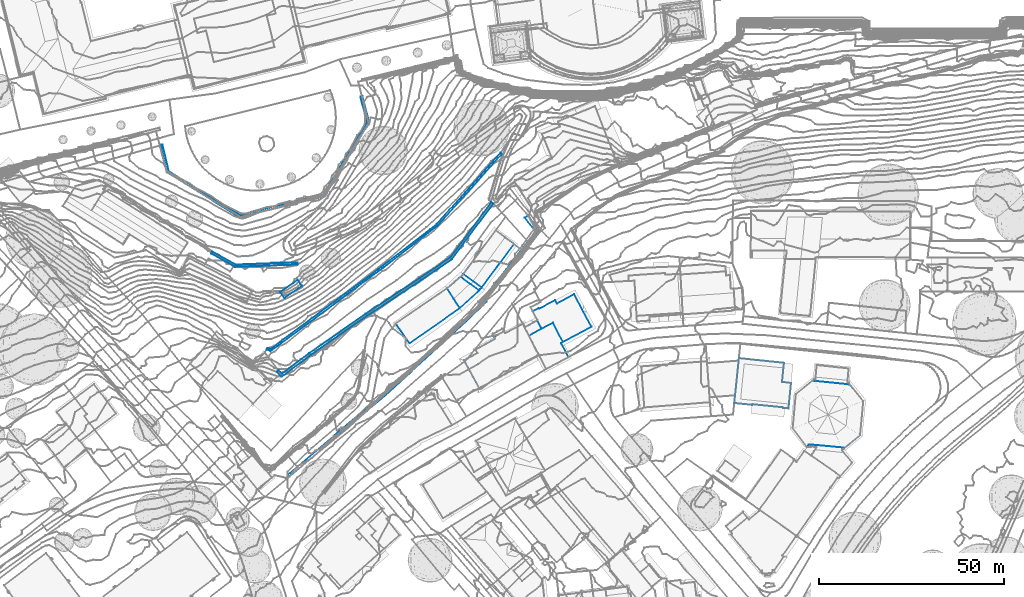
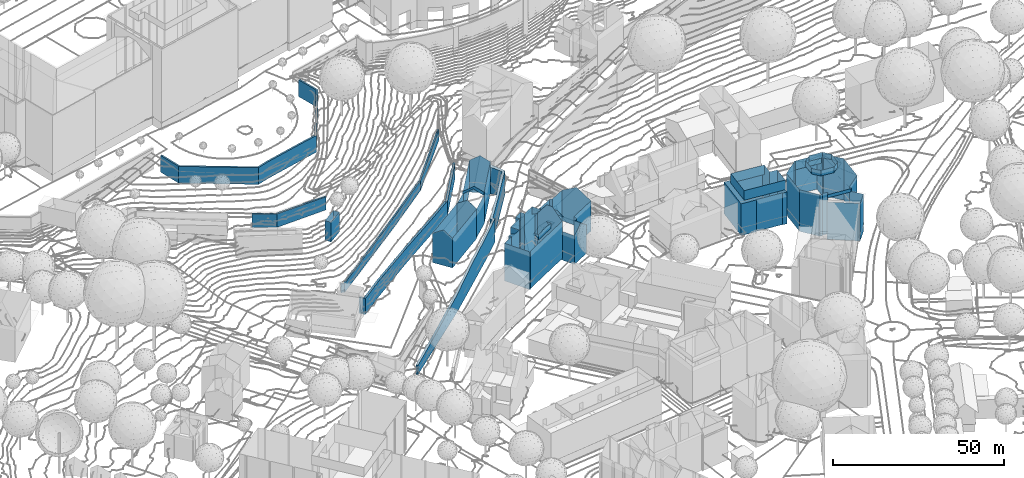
# Not in any storey, part 51 of 477: 12 walls.
"""IFC4 building model written with IfcOpenShell, lengths in metres."""

from ifc_helpers import new_model, si_unit, frame, origin_with_axes, place, context, subcontext, project, spatial, polygons, element, save


model = new_model("IFC4")

# Units and contexts
model_context = context("Model", 3, precision=1e-05, world=origin_with_axes())
body_context = subcontext(model_context, "Body", "Model", "MODEL_VIEW")
ifc_project = project(units=[si_unit("AREAUNIT", "SQUARE_METRE"), si_unit("LENGTHUNIT", "METRE")], contexts=[model_context])

# Sites, building
site_1_placement = place(None, origin_with_axes())
site_1 = spatial("IfcSite", under=ifc_project, at=site_1_placement, Name="Topoexport Site")
site_2_placement = place(site_1_placement, origin_with_axes())
site_2 = spatial("IfcSite", under=site_1, at=site_2_placement, Name="TPX_BUILDINGS")
building_1_placement = place(site_2_placement, frame((211.8297320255, 101.9383160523, 526.7541), z_axis=(0.0, 0.0, 1.0), x_axis=(1.0, 0.0, 0.0)))
building_1 = spatial("IfcBuilding", under=site_2, at=building_1_placement, Name="Building 18", CompositionType="ELEMENT")

# Walls
wall_1_placement = place(None, frame((211.8297320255, 101.9383160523, 526.7541), z_axis=(0.0, 0.0, 1.0), x_axis=(1.0, 0.0, 0.0)))
element("IfcWall", 1, at=wall_1_placement, inside=building_1, Name="Wall 6", context=body_context, shape_type="Tessellation", body=[
    polygons([(226.2320000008, 193.1942999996, 0.835), (243.0140000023, 193.7958999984, 5.4645), (226.2320000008, 193.1942999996, 5.6565), (226.0840000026, 192.5819999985, 0.835), (219.6790000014, 196.1660000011, 5.6565), (226.0840000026, 192.5819999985, 5.6565), (219.9750000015, 196.6953000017, 0.835), (219.9750000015, 196.6953000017, 5.6565), (219.6790000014, 196.1660000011, 0.835), (243.0360000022, 193.1904000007, 0.835), (243.0360000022, 193.1904000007, 5.4645), (243.0140000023, 193.7958999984, 0.835)], [[[3, 2, 1]], [[6, 5, 4]], [[8, 3, 7]], [[5, 8, 9]], [[11, 4, 10]], [[2, 11, 12]], [[2, 12, 1]], [[5, 9, 4]], [[3, 1, 7]], [[8, 7, 9]], [[6, 4, 11]], [[11, 10, 12]]]),
])
wall_2_placement = place(None, frame((211.8297320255, 101.9383160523, 526.7541), z_axis=(0.0, 0.0, 1.0), x_axis=(1.0, 0.0, 0.0)))
element("IfcWall", 2, at=wall_2_placement, inside=building_1, Name="Wall 8", context=body_context, shape_type="Tessellation", body=[
    polygons([(238.8200000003, 163.7226000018, -16.5874), (246.1209999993, 169.2197000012, -10.9639), (238.8200000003, 163.7226000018, -10.8929), (237.9189999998, 164.6748000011, -16.5874), (237.9189999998, 164.6748000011, -10.8929), (237.4409999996, 164.2217000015, -16.5874), (237.4409999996, 164.2217000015, -10.8929), (238.7470000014, 162.8436999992, -16.5874), (238.7470000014, 162.8436999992, -10.8929), (246.507000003, 168.6854999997, -16.5874), (246.507000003, 168.6854999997, -10.9639), (246.1209999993, 169.2197000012, -16.5874), (261.4940000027, 179.8867000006, -11.2489), (261.8630000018, 179.3418000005, -16.5874), (261.8630000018, 179.3418000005, -11.2489), (261.4940000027, 179.8867000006, -16.5874), (276.0890000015, 189.5351000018, -11.3909), (276.4550000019, 188.9882999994, -16.5874), (276.4550000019, 188.9882999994, -11.3909), (276.0890000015, 189.5351000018, -16.5874), (284.3350000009, 195.1387000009, -11.3909), (284.7970000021, 194.6561999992, -16.5874), (284.7970000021, 194.6561999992, -11.3909), (295.9990000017, 209.7382999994, -16.5874), (295.9990000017, 209.7382999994, -10.9639), (295.4700000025, 210.1308000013, -16.5874), (295.4700000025, 210.1308000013, -10.9639), (284.3350000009, 195.1387000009, -16.5874)], [[[3, 2, 1]], [[5, 3, 4]], [[7, 5, 6]], [[9, 7, 8]], [[11, 8, 10]], [[2, 13, 12]], [[15, 10, 14]], [[13, 17, 16]], [[19, 14, 18]], [[17, 21, 20]], [[23, 19, 22]], [[25, 23, 24]], [[27, 25, 26]], [[21, 26, 28]], [[2, 12, 1]], [[3, 1, 4]], [[5, 4, 6]], [[7, 6, 8]], [[9, 8, 11]], [[13, 16, 12]], [[11, 10, 15]], [[17, 20, 16]], [[15, 14, 19]], [[21, 28, 20]], [[19, 18, 22]], [[23, 22, 24]], [[25, 24, 26]], [[27, 26, 21]]]),
])
wall_3_placement = place(None, frame((211.8297320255, 101.9383160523, 526.7541), z_axis=(0.0, 0.0, 1.0), x_axis=(1.0, 0.0, 0.0)))
element("IfcWall", 3, at=wall_3_placement, inside=building_1, Name="Wall 9", context=body_context, shape_type="Tessellation", body=[
    polygons([(294.1209999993, 183.1347000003, -22.4069), (288.2660000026, 177.4453000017, -14.2136), (294.1209999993, 183.1347999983, -14.0297), (288.2660000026, 177.4453000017, -22.4069), (277.4560000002, 167.5439000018, -14.7666), (277.0140000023, 168.0282999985, -22.4069), (287.8159999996, 177.9228000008, -22.4069), (277.0140000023, 168.0282999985, -14.7666), (266.4130000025, 158.3603000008, -22.4069), (266.4130000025, 158.3603000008, -16.1475), (277.4560000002, 167.5439000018, -22.4069), (266.8460000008, 157.8671999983, -16.1475), (240.8580000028, 135.8594000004, -22.4069), (240.4620000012, 136.3828000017, -22.4069), (240.8580000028, 135.8594000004, -19.0262), (299.9330000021, 191.4316000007, -22.4068), (293.6009999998, 183.6112999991, -14.0297), (299.9330000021, 191.4316000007, -13.8457), (292.7030000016, 183.5439000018, -22.4069), (299.4210000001, 191.8407999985, -22.4068), (292.7030000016, 183.5439000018, -14.0297), (293.1660000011, 183.120099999, -22.4069), (287.8159999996, 177.9228000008, -14.2136), (293.6009999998, 183.6112999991, -22.4069), (293.1660000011, 183.120099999, -14.0297), (307.4979999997, 202.1981999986, -22.4068), (304.5190000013, 205.878899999, -22.4068), (307.4979999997, 202.1981999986, -13.5707), (305.4220000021, 206.5194999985, -22.4068), (308.4230000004, 202.2080000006, -13.5687), (305.4220000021, 206.5194999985, -12.6478), (304.5190000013, 205.878899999, -12.7038), (308.4230000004, 202.2080000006, -22.4068), (299.4210000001, 191.8407999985, -13.8457), (254.4750000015, 148.25, -17.8053), (254.4750000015, 148.25, -22.4069), (240.4620000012, 136.3828000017, -19.0232), (254.8990000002, 147.7490000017, -22.4069), (266.8460000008, 157.8671999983, -22.4069), (254.8990000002, 147.7490000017, -17.8053)], [[[3, 2, 1]], [[2, 5, 4]], [[8, 7, 6]], [[10, 6, 9]], [[5, 12, 11]], [[15, 14, 13]], [[18, 17, 16]], [[21, 20, 19]], [[23, 22, 7]], [[17, 3, 24]], [[25, 21, 22]], [[28, 27, 26]], [[31, 30, 29]], [[32, 29, 27]], [[30, 18, 33]], [[34, 26, 20]], [[36, 14, 35]], [[35, 14, 37]], [[10, 9, 36]], [[10, 36, 35]], [[39, 12, 38]], [[38, 12, 40]], [[40, 13, 38]], [[13, 40, 15]], [[2, 4, 1]], [[5, 11, 4]], [[23, 7, 8]], [[8, 6, 10]], [[12, 39, 11]], [[37, 14, 15]], [[17, 24, 16]], [[34, 20, 21]], [[25, 22, 23]], [[3, 1, 24]], [[21, 19, 22]], [[32, 27, 28]], [[30, 33, 29]], [[31, 29, 32]], [[18, 16, 33]], [[28, 26, 34]]]),
])
wall_4_placement = place(None, frame((211.8297320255, 101.9383160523, 526.7541), z_axis=(0.0, 0.0, 1.0), x_axis=(1.0, 0.0, 0.0)))
element("IfcWall", 4, at=wall_4_placement, inside=building_1, Name="Wall 12", context=body_context, shape_type="Tessellation", body=[
    polygons([(235.6860000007, 170.3574000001, -11.8918), (264.8280000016, 191.9404000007, -11.8918), (235.6860000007, 170.3574000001, -8.7491), (235.7670000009, 169.8007999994, -11.8918), (234.7090000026, 170.1854999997, -8.7491), (235.7670000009, 169.8007999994, -8.7491), (234.8790000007, 170.6504000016, -11.8918), (234.8790000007, 170.6504000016, -8.7491), (234.7090000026, 170.1854999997, -11.8918), (265.126000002, 191.5458999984, -11.8918), (265.126000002, 191.5458999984, -8.3042), (298.3029999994, 223.1532999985, -11.8918), (280.9480000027, 203.7412, -8.3042), (298.3029999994, 223.1532999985, -8.0072), (297.9340000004, 223.4833999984, -11.8918), (297.9340000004, 223.4833999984, -8.0072), (280.6090000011, 204.1055000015, -11.8918), (280.6090000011, 204.1055000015, -8.3042), (280.9480000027, 203.7412, -11.8918), (264.8280000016, 191.9404000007, -8.3042)], [[[3, 2, 1]], [[6, 5, 4]], [[8, 3, 7]], [[5, 8, 9]], [[11, 6, 10]], [[14, 13, 12]], [[16, 14, 15]], [[18, 15, 17]], [[13, 11, 19]], [[20, 18, 2]], [[20, 2, 3]], [[5, 9, 4]], [[3, 1, 7]], [[8, 7, 9]], [[6, 4, 10]], [[13, 19, 12]], [[14, 12, 15]], [[16, 15, 18]], [[11, 10, 19]], [[18, 17, 2]]]),
])
wall_5_placement = place(None, frame((211.8297320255, 101.9383160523, 526.7541), z_axis=(0.0, 0.0, 1.0), x_axis=(1.0, 0.0, 0.0)))
element("IfcWall", 5, at=wall_5_placement, inside=building_1, Name="Wall 13", context=body_context, shape_type="Tessellation", body=[
    polygons([(205.9340000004, 225.5936999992, 7.5874), (206.4830000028, 225.7226000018, 13.5628), (205.9340000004, 225.5936999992, 13.5628), (207.700000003, 218.0762000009, 7.5874), (207.700000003, 218.0762000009, 13.5628), (227.5439999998, 205.8671999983, 7.5874), (227.5439999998, 205.8671999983, 13.5628), (231.375, 207.0731999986, 7.5874), (231.375, 207.0731999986, 13.5628), (238.9260000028, 208.9228000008, 7.5874), (238.9260000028, 208.9228000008, 13.5628), (246.5879999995, 210.7558000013, 7.5874), (246.5879999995, 210.7558000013, 13.5628), (250.3399999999, 211.5986000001, 7.5874), (250.3399999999, 211.5986000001, 13.5628), (255.6390000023, 220.4023000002, 7.5874), (255.6390000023, 220.4023000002, 13.5628), (262.4620000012, 231.6669999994, 7.5874), (262.4620000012, 231.6669999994, 13.5628), (260.5860000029, 238.8203000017, 7.5874), (260.5860000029, 238.8203000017, 13.5628), (260.0400000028, 238.6777000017, 7.5874), (260.0400000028, 238.6777000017, 13.5628), (261.8560000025, 231.7558000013, 7.5874), (261.8560000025, 231.7558000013, 13.5628), (255.1559999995, 220.6933000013, 7.5874), (255.1559999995, 220.6933000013, 13.5628), (249.9810000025, 212.0956999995, 7.5874), (249.9810000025, 212.0956999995, 13.5628), (246.4610000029, 211.3057000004, 7.5874), (246.4610000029, 211.3055999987, 13.5628), (238.7939999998, 209.4706999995, 7.5874), (238.7939999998, 209.4706999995, 13.5628), (231.2230000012, 207.6162, 7.5874), (231.2230000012, 207.6162, 13.5628), (227.620000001, 206.4824000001, 7.5874), (227.620000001, 206.4824000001, 13.5628), (208.1950000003, 218.4345999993, 7.5874), (208.1950000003, 218.4345999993, 13.5628), (206.4830000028, 225.7226000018, 7.5874)], [[[3, 2, 1]], [[5, 3, 4]], [[7, 5, 6]], [[9, 7, 8]], [[11, 9, 10]], [[13, 11, 12]], [[15, 13, 14]], [[17, 15, 16]], [[19, 17, 18]], [[21, 19, 20]], [[23, 21, 22]], [[25, 23, 24]], [[27, 25, 26]], [[29, 27, 28]], [[31, 29, 30]], [[33, 31, 32]], [[35, 33, 34]], [[37, 35, 36]], [[39, 37, 38]], [[2, 39, 40]], [[2, 40, 1]], [[3, 1, 4]], [[5, 4, 6]], [[7, 6, 8]], [[9, 8, 10]], [[11, 10, 12]], [[13, 12, 14]], [[15, 14, 16]], [[17, 16, 18]], [[19, 18, 20]], [[21, 20, 22]], [[23, 22, 24]], [[25, 24, 26]], [[27, 26, 28]], [[29, 28, 30]], [[31, 30, 32]], [[33, 32, 34]], [[35, 34, 36]], [[37, 36, 38]], [[39, 38, 40]]]),
])

# Building
building_2_placement = place(site_2_placement, frame((450.1807320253, 287.7430160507, 522.8345), z_axis=(0.0, 0.0, 1.0), x_axis=(1.0, 0.0, 0.0)))
building_2 = spatial("IfcBuilding", under=site_2, at=building_2_placement, Name="Building 103", CompositionType="ELEMENT")

# Wall
wall_6_placement = place(None, frame((450.1807320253, 287.7430160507, 522.8345), z_axis=(0.0, 0.0, 1.0), x_axis=(1.0, 0.0, 0.0)))
element("IfcWall", 6, at=wall_6_placement, inside=building_2, Name="Wall 0", context=body_context, shape_type="Tessellation", body=[
    polygons([(4.745000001, 3.2754000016, 0.0), (5.8729999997, 1.6406000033, 6.9984), (4.745000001, 3.2754000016, 6.9984), (0.0, 0.0, 0.0), (0.0, 0.0, 6.9984), (1.120000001, -1.6415999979, 0.0), (1.120000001, -1.6415999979, 6.9984), (5.8729999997, 1.6406000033, 0.0)], [[[3, 2, 1]], [[5, 3, 4]], [[7, 5, 6]], [[2, 7, 8]], [[2, 8, 1]], [[3, 1, 4]], [[5, 4, 6]], [[7, 6, 8]]]),
])

# Building
building_3_placement = place(site_2_placement, frame((495.292732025, 288.7264160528, 509.5088), z_axis=(0.0, 0.0, 1.0), x_axis=(1.0, 0.0, 0.0)))
building_3 = spatial("IfcBuilding", under=site_2, at=building_3_placement, Name="Building 110", CompositionType="ELEMENT")

# Wall
wall_7_placement = place(None, frame((495.292732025, 288.7264160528, 509.5088), z_axis=(0.0, 0.0, 1.0), x_axis=(1.0, 0.0, 0.0)))
element("IfcWall", 7, at=wall_7_placement, inside=building_3, Name="Wall 0", context=body_context, shape_type="Tessellation", body=[
    polygons([(18.0950000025, 11.9628999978, 11.3319), (15.6520000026, 13.7753999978, 13.2887), (13.1390000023, 15.6396000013, 11.3829), (13.1390000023, 15.6396000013, 0.033), (18.0950000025, 11.9628999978, 0.033), (6.381000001, 1.0790999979, 12.1268), (8.6700000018, -0.5927999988, 11.4649), (8.6700000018, -0.5927999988, 10.19), (6.381000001, 1.0790999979, 13.2887), (3.643000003, 3.0780999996, 11.2239), (6.1500000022, 1.2479999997, 12.3218), (3.643000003, 3.0780999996, 10.244), (9.0329999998, -0.2578000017, 11.4039), (9.0329999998, -0.2578999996, 0.0), (3.4780000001, -5.3946000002, 10.221), (3.4780000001, -5.3946000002, 0.0), (4.3840000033, 3.8319999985, 0.033), (4.1290000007, 3.4891999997, 0.0), (4.3840000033, 3.8319999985, 0.0), (4.1290000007, 3.4891999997, 11.3149), (0.0, 0.0, 10.078), (0.0, 0.0, 0.0), (9.3670000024, 0.1933000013, 0.033), (9.3670000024, 0.1933000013, 0.0), (1.813000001, -2.8125, 12.3218), (6.9270000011, 1.9765000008, 0.033)], [[[3, 2, 1]], [[5, 4, 3]], [[5, 3, 1]], [[8, 7, 6]], [[6, 7, 9]], [[11, 9, 10]], [[9, 11, 6]], [[12, 11, 10]], [[14, 13, 8]], [[8, 13, 7]], [[14, 8, 15]], [[15, 16, 14]], [[19, 18, 17]], [[17, 18, 20]], [[17, 3, 4]], [[3, 17, 20]], [[22, 21, 18]], [[18, 21, 12]], [[12, 10, 20]], [[12, 20, 18]], [[5, 1, 23]], [[23, 1, 13]], [[23, 14, 24]], [[14, 23, 13]], [[22, 16, 15]], [[15, 25, 21]], [[15, 21, 22]], [[19, 17, 26]], [[26, 24, 19]], [[24, 26, 23]]]),
])

# Building
building_4_placement = place(site_2_placement, frame((481.4457320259, 279.2078160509, 509.1578), z_axis=(0.0, 0.0, 1.0), x_axis=(1.0, 0.0, 0.0)))
building_4 = spatial("IfcBuilding", under=site_2, at=building_4_placement, Name="Building 111", CompositionType="ELEMENT")

# Wall
wall_8_placement = place(None, frame((481.4457320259, 279.2078160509, 509.1578), z_axis=(0.0, 0.0, 1.0), x_axis=(1.0, 0.0, 0.0)))
element("IfcWall", 8, at=wall_8_placement, inside=building_4, Name="Wall 0", context=body_context, shape_type="Tessellation", body=[
    polygons([(3.6920000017, -5.3563999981, 10.606), (17.3249999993, 4.1240000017, 10.531), (3.6920000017, -5.3563999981, 0.0), (17.3249999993, 4.1240000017, 0.0), (15.6600000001, 6.7061000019, 0.0), (15.6600000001, 6.7061000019, 12.6728), (2.0109999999, -2.9179999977, 12.6728), (0.0, 0.0, 0.0), (0.7540000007, -1.0936999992, 11.2309), (0.0, 0.0, 10.366), (13.8469999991, 9.5186000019, 10.497), (13.8469999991, 9.5186000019, 0.0)], [[[3, 2, 1]], [[2, 3, 4]], [[6, 4, 5]], [[4, 6, 2]], [[3, 1, 7]], [[7, 8, 3]], [[7, 9, 8]], [[9, 10, 8]], [[5, 11, 6]], [[5, 12, 11]], [[8, 11, 12]], [[11, 8, 10]]]),
])

# Building
building_5_placement = place(site_2_placement, frame((499.9197320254, 269.244916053, 502.2044), z_axis=(0.0, 0.0, 1.0), x_axis=(1.0, 0.0, 0.0)))
building_5 = spatial("IfcBuilding", under=site_2, at=building_5_placement, Name="Building 113", CompositionType="ELEMENT")

# Wall
wall_9_placement = place(None, frame((499.9197320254, 269.244916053, 502.2044), z_axis=(0.0, 0.0, 1.0), x_axis=(1.0, 0.0, 0.0)))
element("IfcWall", 9, at=wall_9_placement, inside=building_5, Name="Wall 0", context=body_context, shape_type="Tessellation", body=[
    polygons([(7.7820000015, 7.0273999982, 0.4), (7.8949999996, 7.1777999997, 15.5725), (7.7820000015, 7.0273999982, 15.5725), (10.3330000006, 8.5137000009, 0.4), (10.4600000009, 8.5225000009, 0.4), (10.3330000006, 8.5137000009, 15.5725), (16.3690000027, 8.9219000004, 0.0), (16.5360000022, 9.0126999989, 13.4687), (16.5360000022, 9.0126999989, 0.0), (16.3690000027, 8.9219000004, 13.4687), (16.3690000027, 8.9219000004, 10.1021), (16.3690000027, 8.9219000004, 6.7344), (16.3690000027, 8.9219000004, 3.3667), (16.0329999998, 9.9794999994, 9.5171), (16.0329999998, 9.9794999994, 12.8848), (0.0, 0.0, 0.0), (3.6400000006, 1.9873000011, 0.0), (0.0, 0.0, 6.6864), (3.6400000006, 1.9873000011, 8.3582), (0.0, 0.0, 13.3738), (3.6400000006, 1.9873000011, 3.3437), (4.2060000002, -7.6269000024, 13.2458), (4.6339999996, -7.3885999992, 13.2487), (4.2060000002, -7.6269000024, 9.9341), (4.2060000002, -7.6269000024, 6.6214), (4.2060000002, -7.6269000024, 0.0), (4.6339999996, -7.3885999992, 0.0), (4.2060000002, -7.6269000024, 3.3087), (4.5670000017, -7.2655999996, 13.3537), (4.5670000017, -7.2655999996, 0.0), (20.3120000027, 1.3476999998, 10.0191), (16.3729999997, -0.807599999, 13.3577), (20.3120000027, 1.3476999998, 13.3597), (20.3120000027, 1.3476999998, 6.6794), (20.3120000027, 1.3476999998, 0.0), (20.3120000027, 1.3476999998, 3.3397), (14.569000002, 0.6152999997, 15.6525), (15.313000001, -0.7479999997, 13.8337), (15.313000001, -0.7479999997, 15.6525), (9.2140000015, -4.0820000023, 13.8317), (8.4680000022, -2.7177999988, 15.6545), (9.2140000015, -4.0820000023, 15.6545), (15.4880000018, 8.0029999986, 13.6747), (14.7790000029, 9.2998000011, 15.6255), (14.7790000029, 9.2998000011, 12.8818), (16.2340000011, 6.6358000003, 15.6255), (15.4880000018, 8.0029999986, 15.6255), (14.6449999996, 9.2276000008, 15.6585), (11.1229999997, 7.3193999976, 15.6535), (11.1229999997, 7.3193999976, 0.0), (16.0329999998, 9.9794999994, 0.0), (8.1720000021, 6.3427999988, 0.4), (8.1720000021, 6.3427999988, 0.0), (10.8530000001, 7.808600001, 0.4), (3.132000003, 2.9063000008, 12.9288), (3.3520000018, 2.5077999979, 12.9308), (3.6400000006, 1.9873000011, 13.3738), (3.132000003, 2.9063000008, 0.0), (3.3520000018, 2.5077999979, 0.0), (4.1110000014, 3.4433999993, 12.9888), (3.2369999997, 2.9638999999, 0.0), (8.4600000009, 5.8359999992, 0.0), (4.1110000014, 3.4433999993, 15.6255), (4.2719999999, 3.5331999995, 15.6645), (8.4600000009, 5.8359999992, 15.6615), (3.2369999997, 2.9638999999, 12.9908), (18.7440000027, 4.3603999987, 17.1594), (17.8159999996, 6.1415999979, 17.1194), (16.5460000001, 8.5821000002, 13.6747), (20.1170000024, 1.7226999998, 13.6747), (17.8159999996, 6.1415999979, 0.0), (18.7440000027, 4.3603999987, 0.0), (4.0800000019, -7.3993999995, 0.0), (0.0260000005, -0.0469000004, 13.4137), (4.0800000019, -7.3993999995, 13.4397), (11.1680000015, -3.0146000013, 13.8327), (13.2960000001, -1.8515000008, 13.8327), (13.2960000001, -1.8515000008, 15.8995), (11.1680000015, -3.0146000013, 15.8995), (10.4600000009, 8.5225000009, 15.5725), (10.8540000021, 7.808600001, 0.0), (10.7530000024, 7.9912, 15.6455), (11.1090000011, 7.3447000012, 15.6445), (8.0720000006, 6.5175999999, 15.6465), (8.4400000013, 5.871100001, 15.6485), (4.8090000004, 2.1679999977, 13.6747), (4.8090000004, 2.1679999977, 15.6255), (5.5560000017, 0.8007999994, 15.6255), (4.7039999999, 2.3583999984, 13.5117), (4.4690000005, 2.7881000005, 13.5107), (4.620000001, 2.5117000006, 15.6255), (4.3800000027, 2.9512000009, 15.6255), (8.9860000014, 7.7753999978, 0.4), (8.2200000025, 7.3554999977, 15.5935), (7.8949999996, 7.1777999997, 0.4), (9.0650000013, 7.8183999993, 15.6205), (9.9110000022, 8.2831999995, 15.5995), (9.9110000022, 8.2831999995, 0.4)], [[[3, 2, 1]], [[6, 5, 4]], [[9, 8, 7]], [[11, 8, 10]], [[12, 8, 11]], [[13, 7, 8]], [[15, 9, 14]], [[15, 8, 9]], [[18, 17, 16]], [[21, 20, 19]], [[24, 23, 22]], [[25, 23, 24]], [[27, 23, 26]], [[28, 26, 23]], [[30, 29, 27]], [[23, 27, 29]], [[33, 32, 31]], [[31, 32, 34]], [[36, 30, 35]], [[30, 36, 32]], [[30, 32, 29]], [[39, 38, 37]], [[42, 41, 40]], [[45, 44, 43]], [[43, 47, 46]], [[47, 43, 44]], [[45, 49, 48]], [[45, 50, 49]], [[48, 44, 45]], [[45, 15, 14]], [[51, 50, 14]], [[50, 45, 14]], [[54, 53, 52]], [[56, 55, 19]], [[19, 57, 56]], [[21, 19, 58]], [[59, 17, 21]], [[58, 59, 21]], [[19, 55, 58]], [[61, 58, 60]], [[60, 62, 61]], [[60, 58, 55]], [[64, 60, 63]], [[60, 64, 65]], [[60, 65, 62]], [[66, 60, 55]], [[69, 68, 67]], [[69, 67, 70]], [[70, 31, 11]], [[10, 69, 11]], [[70, 11, 69]], [[11, 31, 12]], [[12, 34, 13]], [[31, 70, 33]], [[34, 71, 13]], [[34, 36, 71]], [[36, 72, 71]], [[72, 36, 35]], [[71, 7, 13]], [[12, 31, 34]], [[20, 28, 25]], [[18, 73, 28]], [[73, 26, 28]], [[18, 16, 73]], [[25, 24, 74]], [[75, 74, 24]], [[74, 20, 25]], [[28, 20, 18]], [[75, 24, 22]], [[77, 39, 76]], [[38, 39, 77]], [[39, 78, 76]], [[79, 42, 40]], [[76, 78, 40]], [[40, 78, 79]], [[54, 5, 80]], [[81, 54, 50]], [[80, 82, 50]], [[50, 83, 49]], [[83, 50, 82]], [[80, 50, 54]], [[85, 84, 52]], [[65, 85, 62]], [[84, 3, 52]], [[62, 52, 53]], [[52, 62, 85]], [[1, 52, 3]], [[88, 87, 86]], [[86, 90, 89]], [[86, 87, 91]], [[92, 63, 90]], [[92, 90, 86]], [[90, 63, 60]], [[92, 86, 91]], [[2, 94, 93]], [[2, 93, 95]], [[94, 96, 93]], [[96, 97, 4]], [[96, 4, 98]], [[4, 97, 6]], [[96, 98, 93]], [[2, 95, 1]], [[80, 5, 6]], [[12, 13, 8]], [[51, 14, 9]], [[20, 17, 18]], [[57, 19, 20]], [[17, 20, 21]], [[25, 28, 23]], [[32, 36, 34]], [[81, 53, 54]]]),
])

# Building
building_6_placement = place(site_2_placement, frame((516.2887320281, 278.1668160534, 502.5014), z_axis=(0.0, 0.0, 1.0), x_axis=(1.0, 0.0, 0.0)))
building_6 = spatial("IfcBuilding", under=site_2, at=building_6_placement, Name="Building 114", CompositionType="ELEMENT")

# Wall
wall_10_placement = place(None, frame((516.2887320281, 278.1668160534, 502.5014), z_axis=(0.0, 0.0, 1.0), x_axis=(1.0, 0.0, 0.0)))
element("IfcWall", 10, at=wall_10_placement, inside=building_6, Name="Wall 0", context=body_context, shape_type="Tessellation", body=[
    polygons([(10.2819999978, -5.0225000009, 9.2251), (9.3259999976, -5.5234000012, 10.051), (10.2819999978, -5.0225000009, 10.051), (13.4129999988, 8.9375, 10.781), (8.7839999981, 6.4756000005, -0.154), (13.4129999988, 8.9375, 8.0422), (13.4129999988, 8.9375, 5.3045), (8.3099999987, 7.3682000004, 10.222), (8.3099999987, 7.3682000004, -0.154), (3.8789999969, 5.0106999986, 10.239), (3.8789999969, 5.0106999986, -0.154), (3.7859999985, 5.1845999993, -0.154), (3.7859999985, 5.1845999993, 10.126), (2.1789999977, 4.365199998, -0.154), (2.1789999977, 4.365199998, 10.115), (1.5229999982, -2.9248000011, 9.3941), (1.5229999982, -2.9248000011, 9.946), (4.3559999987, -1.4414000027, 11.7619), (4.4609999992, -0.0459000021, 0.0), (4.618999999, -0.379900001, 0.0), (4.618999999, -0.379900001, -0.154), (4.4599999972, -0.0439000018, -0.154), (3.3990000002, 1.8612999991, -0.154), (3.3990000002, 1.8612999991, 0.0), (4.4599999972, -0.0439000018, 12.1748), (3.7729999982, 1.1884999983, 12.1458), (4.4599999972, -0.0439000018, 12.9518), (4.9689999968, -1.1201000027, 11.4399), (4.493999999, -1.3691000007, 11.8499), (4.9689999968, -1.1201000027, 12.1548), (7.6559999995, 1.2793000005, -0.8259), (10.3880000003, -3.9326000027, -0.8259), (7.6559999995, 1.2793000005, -0.154), (9.8539999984, -4.2168000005, 10.602), (9.8539999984, -4.2168000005, -0.8259), (11.9019999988, -8.0692999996, -0.8259), (11.9019999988, -8.0692999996, 9.2091), (18.0879999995, 0.1620999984, -0.154), (10.3880000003, -3.9326000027, -0.154), (18.0879999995, 0.1620999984, 10.636), (15.7559999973, 4.5341999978, 13.6317), (15.7559999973, 4.5341999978, -0.154), (13.4129999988, 8.9375, -0.154), (5.4629999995, -2.1631000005, 12.9348), (6.4469999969, -4.2402000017, 11.5469), (3.4849999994, 1.9081999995, 4.2936), (0.0, 0.0, 9.9311), (2.7630000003, 1.5126999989, 0.0), (0.0, 0.0, 0.0), (3.4849999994, 1.9081999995, -0.154), (2.7630000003, 1.5126999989, 11.7189), (3.4849999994, 1.9081999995, 8.7402), (3.3990000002, 1.8612999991, 11.7059), (3.4849999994, 1.9081999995, 11.7049), (5.8829999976, -11.2988000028, 9.3751), (1.1769999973, -2.2607000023, 0.0), (5.8829999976, -11.2988000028, -0.8259), (1.1769999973, -2.2607000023, -0.8259), (8.8449999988, -9.7090000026, 11.8638), (8.8449999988, -9.7090000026, -0.8259), (3.9560000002, -0.7422000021, 11.7399), (4.1219999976, -0.6523000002, 11.8469), (4.1030000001, -0.6621000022, 11.8639), (4.1030000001, -0.6621000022, -0.8259), (8.7839999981, 6.4756000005, 10.799)], [[[3, 2, 1]], [[6, 5, 4]], [[7, 5, 6]], [[9, 8, 5]], [[10, 8, 9]], [[11, 10, 9]], [[13, 10, 12]], [[12, 10, 11]], [[15, 12, 14]], [[18, 17, 16]], [[21, 20, 19]], [[19, 22, 21]], [[19, 24, 23]], [[19, 23, 22]], [[27, 26, 25]], [[30, 29, 28]], [[33, 32, 31]], [[34, 3, 1]], [[34, 1, 35]], [[37, 36, 35]], [[37, 35, 1]], [[40, 39, 38]], [[39, 40, 34]], [[39, 35, 32]], [[35, 39, 34]], [[4, 41, 6]], [[40, 7, 6]], [[6, 41, 40]], [[40, 38, 42]], [[43, 7, 42]], [[42, 7, 40]], [[45, 44, 30]], [[30, 27, 25]], [[27, 30, 44]], [[30, 28, 45]], [[48, 47, 46]], [[47, 48, 49]], [[48, 46, 24]], [[23, 24, 50]], [[50, 24, 46]], [[52, 47, 51]], [[52, 51, 53]], [[47, 52, 46]], [[52, 53, 54]], [[56, 55, 16]], [[55, 56, 57]], [[17, 47, 16]], [[16, 49, 56]], [[49, 16, 47]], [[56, 58, 57]], [[37, 59, 55]], [[37, 55, 60]], [[37, 60, 36]], [[60, 55, 57]], [[63, 62, 61]], [[64, 56, 21]], [[56, 64, 58]], [[20, 21, 56]], [[33, 31, 21]], [[21, 31, 64]], [[5, 65, 4]], [[43, 5, 7]], [[5, 8, 65]], [[13, 12, 15]], [[54, 15, 52]], [[46, 52, 15]], [[15, 50, 46]], [[15, 14, 50]], [[39, 32, 33]]]),
])

# Building
building_7_placement = place(site_2_placement, frame((573.0317320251, 257.6658160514, 499.7226), z_axis=(0.0, 0.0, 1.0), x_axis=(1.0, 0.0, 0.0)))
building_7 = spatial("IfcBuilding", under=site_2, at=building_7_placement, Name="Building 175", CompositionType="ELEMENT")

# Wall
wall_11_placement = place(None, frame((573.0317320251, 257.6658160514, 499.7226), z_axis=(0.0, 0.0, 1.0), x_axis=(1.0, 0.0, 0.0)))
element("IfcWall", 11, at=wall_11_placement, inside=building_7, Name="Wall 0", context=body_context, shape_type="Tessellation", body=[
    polygons([(2.6390000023, 10.6172000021, 11.3249), (13.3090000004, 9.5439999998, 14.7666), (2.6390000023, 10.6172000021, 14.7666), (1.6830000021, 1.1026000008, 11.3249), (1.6830000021, 1.1026000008, 14.7666), (14.7850000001, -0.2137999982, 11.3249), (14.7850000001, -0.2137999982, 14.7666), (1.2609999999, 12.1338, 0.0), (13.4410000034, 10.8672000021, 11.3249), (1.2609999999, 12.1338, 11.3249), (0.0, 0.0, 0.0), (0.0, 0.0, 11.3249), (4.8920000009, -0.3202999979, 0.0), (4.8740000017, -0.498999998, 11.3249), (4.8920000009, -0.3202999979, 11.3249), (13.2760000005, -1.1875, 0.0), (13.2760000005, -1.1875, 11.3249), (13.2630000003, -1.3143999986, 0.0), (13.2630000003, -1.3143999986, 11.3249), (14.6590000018, -1.4648000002, 0.0), (14.6590000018, -1.4648000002, 11.3249), (12.9260000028, 5.6963, 0.0), (15.3509999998, 5.4209000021, 14.7666), (12.9260000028, 5.6963, 14.7666), (13.3090000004, 9.5439999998, 11.3249), (13.4410000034, 10.8672000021, 0.0), (15.3509999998, 5.4209000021, 0.0), (4.8740000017, -0.498999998, 0.0)], [[[3, 2, 1]], [[5, 3, 4]], [[7, 5, 6]], [[10, 9, 8]], [[12, 10, 11]], [[15, 14, 13]], [[17, 15, 16]], [[19, 17, 18]], [[21, 19, 20]], [[24, 23, 22]], [[26, 9, 25]], [[25, 24, 22]], [[24, 25, 2]], [[25, 22, 26]], [[23, 6, 27]], [[6, 23, 7]], [[27, 6, 20]], [[21, 20, 6]], [[12, 11, 14]], [[2, 25, 1]], [[3, 1, 4]], [[5, 4, 6]], [[9, 26, 8]], [[10, 8, 11]], [[14, 28, 13]], [[15, 13, 16]], [[17, 16, 18]], [[19, 18, 20]], [[23, 27, 22]], [[11, 28, 14]]]),
])

# Building
building_8_placement = place(site_2_placement, frame((588.8407320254, 250.8973160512, 499.7896), z_axis=(0.0, 0.0, 1.0), x_axis=(1.0, 0.0, 0.0)))
building_8 = spatial("IfcBuilding", under=site_2, at=building_8_placement, Name="Building 179", CompositionType="ELEMENT")

# Wall
wall_12_placement = place(None, frame((588.8407320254, 250.8973160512, 499.7896), z_axis=(0.0, 0.0, 1.0), x_axis=(1.0, 0.0, 0.0)))
element("IfcWall", 12, at=wall_12_placement, inside=building_8, Name="Wall 0", context=body_context, shape_type="Tessellation", body=[
    polygons([(13.7360000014, -6.4062999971, 13.3107), (13.5470000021, -6.5615999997, 13.3107), (13.7360000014, -6.4062999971, 14.4895), (6.0769999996, -5.8183999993, 14.4895), (13.5470000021, -6.5615999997, 14.4895), (6.2010000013, 13.826100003, 11.2529), (14.8599999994, 12.9668000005, 11.2529), (6.2010000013, 13.826100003, 14.4896), (0.0, 0.0, 0.0), (0.2129999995, 2.2910000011, 14.8175), (0.0, 0.0, 14.8255), (0.8520000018, 9.1640000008, 0.0), (0.6390000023, 6.8729999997, 14.8025), (0.8520000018, 9.1640000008, 14.7955), (12.8790000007, -12.995099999, -0.0301), (4.9570000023, -7.4659000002, 13.3107), (12.8790000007, -12.995199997, 13.3106), (16.0960000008, -9.3554999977, -0.0301), (16.0960000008, -9.3554999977, 13.3106), (13.5810000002, -5.2665999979, -0.0301), (13.8210000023, -5.5605999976, -0.0001), (13.5810000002, -5.2665999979, -0.0001), (4.3619999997, -4.4081999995, -0.0301), (4.3619999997, -4.4081999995, -0.0001), (3.882000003, -5.0859999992, -0.0301), (3.882000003, -5.0859999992, -0.0001), (6.4900000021, 17.0428999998, 10.211), (15.1290000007, 16.1053999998, -0.02), (15.1290000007, 16.1053999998, 10.237), (6.4900000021, 17.0428999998, -0.02), (5.4030000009, 12.8808000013, -0.02), (5.3949999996, 12.8047000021, 0.0), (5.3949999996, 12.8047000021, -0.02), (5.4030000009, 12.8808000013, 0.0), (15.2550000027, 11.8242000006, -0.0199), (15.2550000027, 11.8242000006, 0.0001), (15.2780000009, 12.0604999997, 0.0), (15.2780000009, 12.0604999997, -0.02), (5.4480000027, 1.683600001, 17.4073), (5.2110000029, 1.9726000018, 18.2732), (6.7950000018, 0.0390000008, 17.4073), (5.2110000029, 1.9726000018, 19.4041), (5.2110000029, 1.9715999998, 17.4063), (7.0280000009, -0.245199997, 17.9062), (7.0270000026, -0.245099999, 17.4063), (13.4510000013, 1.1513000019, 17.4063), (13.1730000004, 0.9248000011, 17.4063), (13.4510000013, 1.1523000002, 17.9052), (13.4510000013, 1.1523000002, 19.4031), (11.5350000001, -0.4179999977, 17.4063), (11.2349999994, -0.6631000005, 17.4063), (11.2349999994, -0.6631000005, 19.4031), (5.6290000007, 6.1797000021, 17.9052), (5.9330000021, 6.4287, 17.4063), (5.6290000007, 6.1797000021, 19.4031), (5.6290000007, 6.1797000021, 17.4063), (7.5659999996, 7.7646000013, 17.4073), (7.8470000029, 7.9941000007, 18.0122), (7.8460000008, 7.9941000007, 17.4063), (12.3080000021, 7.2666000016, 17.4063), (13.8690000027, 5.3603000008, 19.4031), (12.0540000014, 7.576100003, 19.4031), (13.8690000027, 5.3603000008, 17.9052), (13.6420000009, 5.6377000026, 17.4063), (13.8690000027, 5.3603000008, 17.4063), (18.2360000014, -1.9257999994, 14.7866), (19.0940000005, 7.3125, 14.8176), (19.0940000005, 7.3125, 0.0001), (18.2330000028, -1.9589999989, 0.0), (18.2330000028, -1.9589999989, 14.7756), (13.3599999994, -5.9365999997, 14.7805), (13.3599999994, -5.9365999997, -0.0301), (13.8210000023, -5.5605999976, -0.0301), (4.8350000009, -4.9814999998, -0.0301), (6.4990000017, -5.1972999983, 14.8305), (6.4990000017, -5.1972999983, -0.0301), (4.8350000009, -4.9814999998, 14.8565), (4.9570000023, -7.4659000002, -0.0301), (6.0769999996, -5.8183999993, 13.3107), (6.1400000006, 13.1533000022, 14.8385), (6.1400000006, 13.1533000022, -0.02), (5.8110000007, 13.1865000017, 14.8385), (5.7809999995, 13.1894000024, 14.8285), (5.7809999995, 13.1895000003, -0.02), (15.068, 12.2627000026, 14.8405), (14.8020000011, 12.2890000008, 14.8405), (14.8020000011, 12.2890000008, -0.02), (15.120000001, 12.2578000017, -0.02), (15.120000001, 12.2578000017, 14.8235), (14.8599999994, 12.9668000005, 14.4896), (3.882000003, -5.0859999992, 14.7445), (0.0419999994, -0.0546999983, 14.8505), (3.9110000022, -5.0888999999, 14.7545), (4.7740000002, -5.182699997, 14.7505), (4.7740000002, -5.182599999, -0.0301), (0.9120000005, 9.2138000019, 14.8235), (19.0350000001, 7.3857000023, 14.8516), (7.1040000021, -0.253899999, 19.4311), (7.0280000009, -0.245199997, 19.4041), (11.1570000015, -0.6552999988, 17.4063), (11.1570000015, -0.6552999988, 19.4311), (7.1040000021, -0.253899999, 17.4063), (5.2190000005, 2.0488000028, 19.4311), (5.6210000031, 6.1025000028, 19.4311), (5.2190000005, 2.0488000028, 17.4063), (5.6210000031, 6.1025000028, 17.4063), (7.9230000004, 7.9863000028, 19.4311), (7.8470000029, 7.9941000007, 19.4041), (11.9770000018, 7.5840000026, 17.4063), (7.9230000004, 7.9863000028, 17.4063), (12.0540000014, 7.576100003, 17.4063), (11.9770000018, 7.5840000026, 19.4311), (13.8610000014, 5.2822000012, 17.4063), (13.8610000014, 5.2822000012, 19.4311), (13.4591000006, 1.2294999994, 19.4311), (13.4590000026, 1.2294999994, 17.4063)], [[[3, 2, 1]], [[5, 4, 2]], [[8, 7, 6]], [[11, 10, 9]], [[13, 12, 9]], [[12, 13, 14]], [[17, 16, 15]], [[19, 17, 18]], [[22, 21, 20]], [[24, 22, 23]], [[26, 24, 25]], [[29, 28, 27]], [[30, 27, 28]], [[33, 32, 31]], [[34, 31, 32]], [[36, 32, 35]], [[38, 37, 36]], [[36, 35, 38]], [[41, 40, 39]], [[41, 42, 40]], [[43, 39, 40]], [[41, 45, 44]], [[48, 47, 46]], [[47, 48, 49]], [[50, 47, 49]], [[52, 51, 50]], [[49, 52, 50]], [[55, 54, 53]], [[53, 54, 56]], [[58, 57, 54]], [[59, 57, 58]], [[62, 61, 60]], [[63, 60, 61]], [[60, 63, 64]], [[65, 64, 63]], [[68, 67, 66]], [[66, 70, 69]], [[66, 69, 68]], [[71, 3, 1]], [[71, 1, 72]], [[19, 18, 72]], [[19, 72, 1]], [[21, 69, 70]], [[21, 71, 72]], [[71, 21, 70]], [[21, 72, 73]], [[76, 75, 74]], [[77, 74, 75]], [[78, 16, 76]], [[76, 16, 79]], [[79, 4, 75]], [[79, 75, 76]], [[80, 8, 6]], [[6, 27, 81]], [[80, 6, 81]], [[30, 81, 27]], [[84, 83, 82]], [[82, 80, 81]], [[82, 81, 84]], [[87, 86, 85]], [[85, 89, 88]], [[85, 88, 87]], [[90, 86, 7]], [[28, 29, 7]], [[28, 7, 87]], [[86, 87, 7]], [[91, 9, 26]], [[92, 11, 9]], [[9, 91, 92]], [[95, 94, 93]], [[95, 93, 91]], [[95, 26, 25]], [[26, 95, 91]], [[77, 94, 74]], [[83, 14, 96]], [[83, 84, 34]], [[34, 12, 83]], [[31, 34, 84]], [[83, 12, 14]], [[88, 89, 37]], [[37, 38, 88]], [[89, 68, 37]], [[97, 67, 68]], [[97, 68, 89]], [[51, 52, 98]], [[100, 51, 99]], [[98, 52, 101]], [[44, 102, 100]], [[99, 44, 100]], [[51, 98, 99]], [[45, 102, 44]], [[42, 103, 40]], [[105, 43, 104]], [[104, 43, 40]], [[40, 103, 104]], [[55, 53, 105]], [[56, 106, 53]], [[106, 105, 53]], [[105, 104, 55]], [[108, 107, 58]], [[110, 58, 109]], [[111, 58, 107]], [[62, 111, 107]], [[111, 109, 58]], [[107, 112, 62]], [[110, 59, 58]], [[113, 65, 63]], [[113, 63, 49]], [[61, 49, 63]], [[115, 61, 114]], [[46, 116, 48]], [[48, 116, 113]], [[49, 48, 113]], [[61, 115, 49]], [[5, 2, 3]], [[4, 79, 2]], [[90, 7, 8]], [[10, 13, 9]], [[16, 78, 15]], [[17, 15, 18]], [[21, 73, 20]], [[22, 20, 23]], [[24, 23, 25]], [[32, 33, 35]], [[44, 99, 41]], [[41, 99, 42]], [[54, 55, 58]], [[108, 58, 55]], [[62, 60, 111]], [[94, 95, 74]]]),
])

save(model, "model.ifc")
